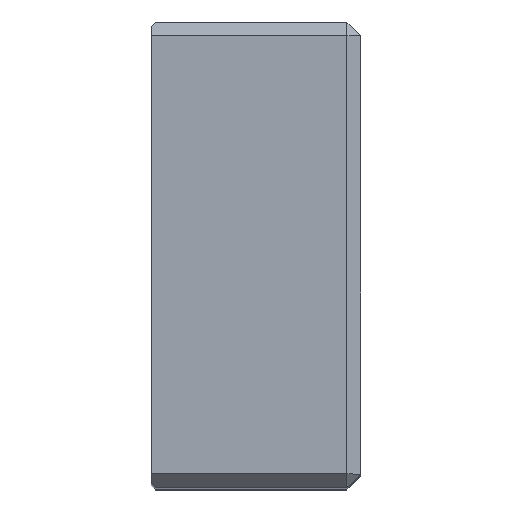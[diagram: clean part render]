
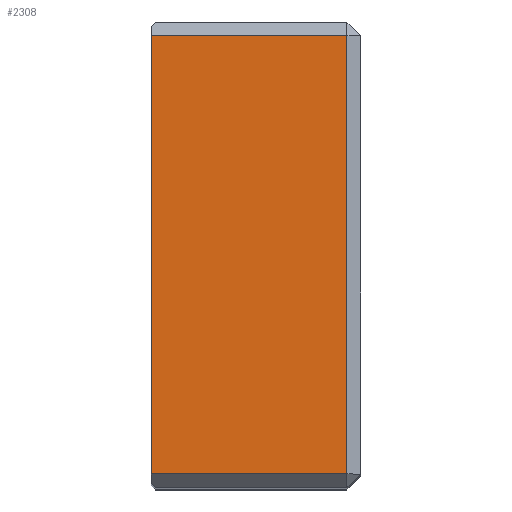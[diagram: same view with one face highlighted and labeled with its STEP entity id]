
A CAD part, top view. The second image highlights one B-rep face of the part: STEP entity #2308.
In plain terms, the highlighted planar face has unit normal (0, 0, 1).
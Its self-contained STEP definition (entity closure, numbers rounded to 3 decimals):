
#267=VERTEX_POINT(' ',#268);
#268=CARTESIAN_POINT('',(-3.,-47.,0.));
#269=VERTEX_POINT(' ',#270);
#270=CARTESIAN_POINT('',(-3.,47.,0.));
#271=VERTEX_POINT(' ',#272);
#272=CARTESIAN_POINT('',(-45.,47.,0.));
#273=VERTEX_POINT(' ',#274);
#274=CARTESIAN_POINT('',(-45.,-47.,0.));
#1115=LINE('',#1116,#1117);
#1116=CARTESIAN_POINT('',(-3.,63.971,0.));
#1117=VECTOR('',#1118,1.);
#1118=DIRECTION('',(0.,-1.,0.));
#1119=EDGE_CURVE(' ',#269,#267,#1115,.T.);
#1120=LINE('',#1121,#1122);
#1121=CARTESIAN_POINT('',(-61.971,47.,0.));
#1122=VECTOR('',#1123,1.);
#1123=DIRECTION('',(1.,0.,0.));
#1124=EDGE_CURVE(' ',#271,#269,#1120,.T.);
#1125=LINE('',#1126,#1127);
#1126=CARTESIAN_POINT('',(-45.,50.12,0.));
#1127=VECTOR('',#1128,1.);
#1128=DIRECTION('',(0.,-1.,0.));
#1129=EDGE_CURVE(' ',#271,#273,#1125,.T.);
#1130=LINE('',#1131,#1132);
#1131=CARTESIAN_POINT('',(13.971,-47.,0.));
#1132=VECTOR('',#1133,1.);
#1133=DIRECTION('',(-1.,0.,0.));
#1134=EDGE_CURVE(' ',#267,#273,#1130,.T.);
#2297=ORIENTED_EDGE('',*,*,#1119,.F.);
#2298=ORIENTED_EDGE('',*,*,#1124,.F.);
#2299=ORIENTED_EDGE('',*,*,#1129,.T.);
#2300=ORIENTED_EDGE('',*,*,#1134,.F.);
#2301=EDGE_LOOP('',(#2297,#2298,#2299,#2300));
#2302=FACE_OUTER_BOUND('',#2301,.T.);
#2303=PLANE('',#2304);
#2304=AXIS2_PLACEMENT_3D('',#2305,#2306,#2307);
#2305=CARTESIAN_POINT('',(0.,50.,0.));
#2306=DIRECTION('',(0.,0.,1.));
#2307=DIRECTION('',(0.,-1.,0.));
#2308=ADVANCED_FACE('',(#2302),#2303,.T.);
